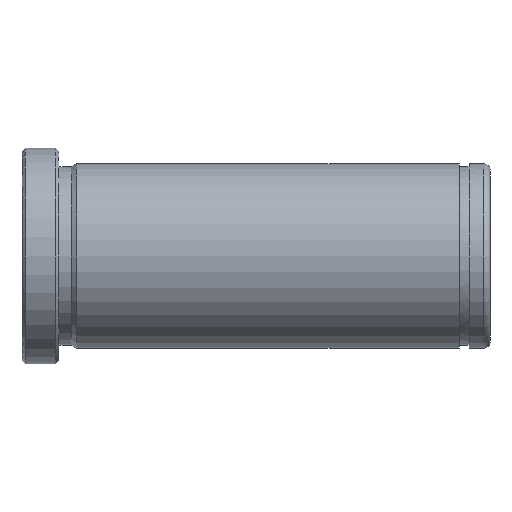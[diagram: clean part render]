
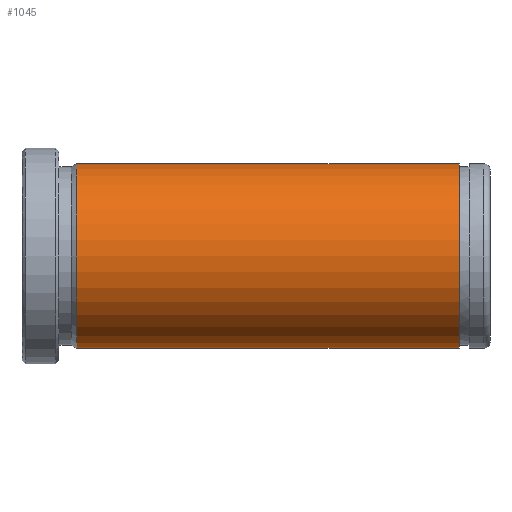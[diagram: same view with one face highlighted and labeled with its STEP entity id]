
A CAD part, front view. The second image highlights one B-rep face of the part: STEP entity #1045.
In plain terms, the highlighted cylindrical face has radius 15 mm (diameter 30 mm), a partial arc.
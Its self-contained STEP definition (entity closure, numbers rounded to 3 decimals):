
#851=CARTESIAN_POINT('Vertex',(8.866,0.,-15.)) ;
#858=CARTESIAN_POINT('Vertex',(8.866,0.,15.)) ;
#887=CARTESIAN_POINT('Axis2P3D Location',(8.866,0.,0.)) ;
#891=CARTESIAN_POINT('Vertex',(8.866,-15.,0.)) ;
#894=CARTESIAN_POINT('Axis2P3D Location',(8.866,0.,0.)) ;
#985=CARTESIAN_POINT('Line Origine',(152.,0.,15.)) ;
#989=CARTESIAN_POINT('Vertex',(71.,0.,15.)) ;
#1003=CARTESIAN_POINT('Vertex',(71.,0.,-15.)) ;
#1006=CARTESIAN_POINT('Line Origine',(152.,0.,-15.)) ;
#1020=CARTESIAN_POINT('Axis2P3D Location',(152.,0.,0.)) ;
#1025=CARTESIAN_POINT('Axis2P3D Location',(71.,0.,0.)) ;
#1029=CARTESIAN_POINT('Vertex',(71.,-15.,0.)) ;
#1032=CARTESIAN_POINT('Axis2P3D Location',(71.,0.,0.)) ;
#888=DIRECTION('Axis2P3D Direction',(1.,0.,-0.)) ;
#895=DIRECTION('Axis2P3D Direction',(1.,0.,-0.)) ;
#986=DIRECTION('Vector Direction',(-1.,0.,0.)) ;
#1007=DIRECTION('Vector Direction',(-1.,0.,0.)) ;
#1021=DIRECTION('Axis2P3D Direction',(-1.,-0.,-0.)) ;
#1022=DIRECTION('Axis2P3D XDirection',(0.,0.,-1.)) ;
#1026=DIRECTION('Axis2P3D Direction',(-1.,-0.,-0.)) ;
#1033=DIRECTION('Axis2P3D Direction',(-1.,-0.,-0.)) ;
#889=AXIS2_PLACEMENT_3D('Circle Axis2P3D',#887,#888,$) ;
#896=AXIS2_PLACEMENT_3D('Circle Axis2P3D',#894,#895,$) ;
#1023=AXIS2_PLACEMENT_3D('Cylinder Axis2P3D',#1020,#1021,#1022) ;
#1027=AXIS2_PLACEMENT_3D('Circle Axis2P3D',#1025,#1026,$) ;
#1034=AXIS2_PLACEMENT_3D('Circle Axis2P3D',#1032,#1033,$) ;
#1038=ORIENTED_EDGE('',*,*,#1010,.T.) ;
#1039=ORIENTED_EDGE('',*,*,#1031,.F.) ;
#1040=ORIENTED_EDGE('',*,*,#1036,.F.) ;
#1041=ORIENTED_EDGE('',*,*,#991,.T.) ;
#1042=ORIENTED_EDGE('',*,*,#898,.T.) ;
#1043=ORIENTED_EDGE('',*,*,#893,.T.) ;
#987=VECTOR('Line Direction',#986,1.) ;
#1008=VECTOR('Line Direction',#1007,1.) ;
#1045=ADVANCED_FACE('553-22X76',(#1044),#1024,.T.) ;
#890=CIRCLE('generated circle',#889,15.) ;
#897=CIRCLE('generated circle',#896,15.) ;
#1028=CIRCLE('generated circle',#1027,15.) ;
#1035=CIRCLE('generated circle',#1034,15.) ;
#1024=CYLINDRICAL_SURFACE('generated cylinder',#1023,15.) ;
#893=EDGE_CURVE('',#892,#852,#890,.T.) ;
#898=EDGE_CURVE('',#859,#892,#897,.T.) ;
#991=EDGE_CURVE('',#990,#859,#988,.T.) ;
#1010=EDGE_CURVE('',#852,#1004,#1009,.F.) ;
#1031=EDGE_CURVE('',#1030,#1004,#1028,.F.) ;
#1036=EDGE_CURVE('',#990,#1030,#1035,.F.) ;
#1037=EDGE_LOOP('',(#1038,#1039,#1040,#1041,#1042,#1043)) ;
#1044=FACE_OUTER_BOUND('',#1037,.T.) ;
#988=LINE('Line',#985,#987) ;
#1009=LINE('Line',#1006,#1008) ;
#852=VERTEX_POINT('',#851) ;
#859=VERTEX_POINT('',#858) ;
#892=VERTEX_POINT('',#891) ;
#990=VERTEX_POINT('',#989) ;
#1004=VERTEX_POINT('',#1003) ;
#1030=VERTEX_POINT('',#1029) ;
